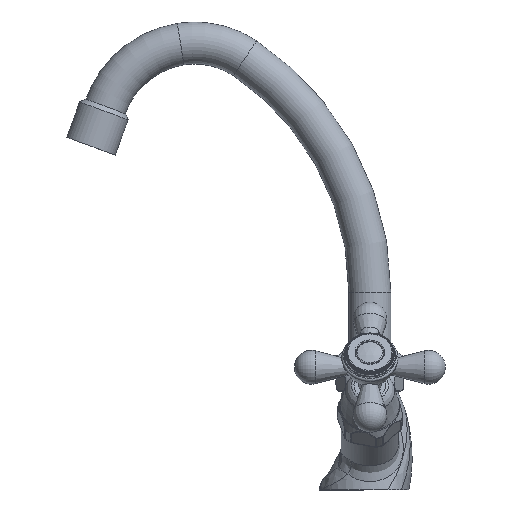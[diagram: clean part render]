
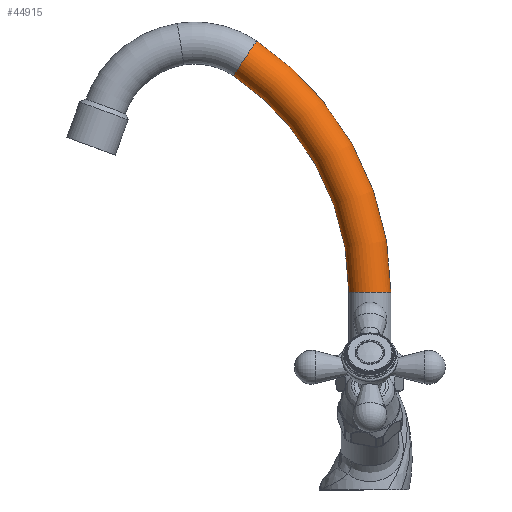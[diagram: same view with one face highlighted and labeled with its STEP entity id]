
A CAD part, left-side view. The second image highlights one B-rep face of the part: STEP entity #44915.
In plain terms, the highlighted toroidal (fillet/blend) face has major radius 127.5 mm and minor radius 9.5 mm.
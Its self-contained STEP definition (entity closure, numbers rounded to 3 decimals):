
#44915=ADVANCED_FACE('',(#111012,#111014),#111016,.T.);
#111012=FACE_OUTER_BOUND('',#111013,.T.);
#111013=EDGE_LOOP('',(#134142));
#111014=FACE_OUTER_BOUND('',#111015,.T.);
#111015=EDGE_LOOP('',(#134143));
#111016=TOROIDAL_SURFACE('',#111017,127.5,9.5);
#111017=AXIS2_PLACEMENT_3D('',#111018,#111019,#111020);
#111018=CARTESIAN_POINT('',(0.,127.5,29.644));
#111019=DIRECTION('',(-1.,0.,0.));
#111020=DIRECTION('',(0.,-1.,0.));
#134142=ORIENTED_EDGE('',*,*,#145699,.F.);
#134143=ORIENTED_EDGE('',*,*,#145700,.T.);
#145699=EDGE_CURVE('',#163895,#163895,#163896,.T.);
#145700=EDGE_CURVE('',#163897,#163897,#163898,.T.);
#163895=VERTEX_POINT('',#268482);
#163896=CIRCLE('',#268483,9.5);
#163897=VERTEX_POINT('',#268487);
#163898=CIRCLE('',#268488,9.5);
#268482=CARTESIAN_POINT('',(0.,61.808,127.666));
#268483=AXIS2_PLACEMENT_3D('',#268484,#268485,#268486);
#268484=CARTESIAN_POINT('',(0.,56.519,135.558));
#268485=DIRECTION('',(0.,0.831,0.557));
#268486=DIRECTION('',(0.,0.557,-0.831));
#268487=CARTESIAN_POINT('',(0.,9.5,29.644));
#268488=AXIS2_PLACEMENT_3D('',#268489,#268490,#268491);
#268489=CARTESIAN_POINT('',(0.,0.,29.644));
#268490=DIRECTION('',(0.,0.,1.));
#268491=DIRECTION('',(0.,1.,0.));
